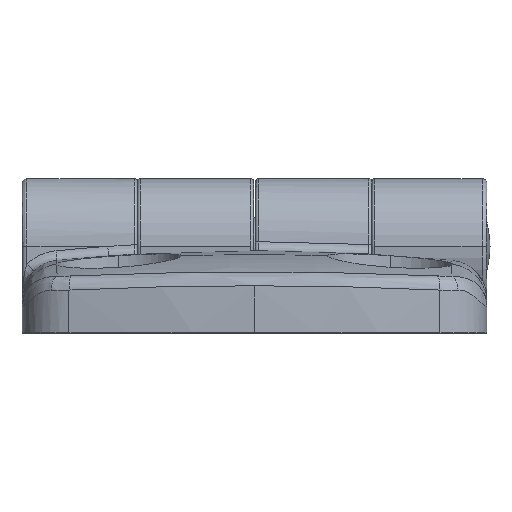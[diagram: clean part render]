
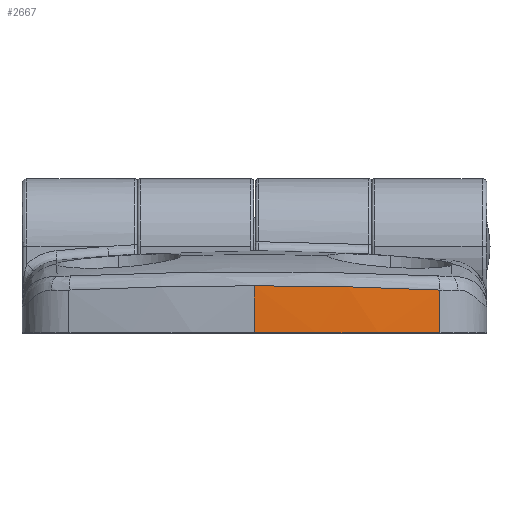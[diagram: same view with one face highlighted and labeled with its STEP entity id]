
A CAD part, top view. The second image highlights one B-rep face of the part: STEP entity #2667.
In plain terms, the highlighted cylindrical face has radius 100 mm (diameter 200 mm), a partial arc.
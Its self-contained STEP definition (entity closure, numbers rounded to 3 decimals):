
#1877 = B_SPLINE_CURVE_WITH_KNOTS ( 'NONE', 3,
 ( #11338, #11332, #11341, #11342, #11343, #11345 ),
 .UNSPECIFIED., .F., .F.,
 ( 4, 2, 4 ),
 ( 0.004, 0.014, 0.024 ),
 .UNSPECIFIED. ) ;
#2667 = ADVANCED_FACE ( 'NONE', ( #7397 ), #7402, .T. ) ;
#3475 = DIRECTION ( 'NONE',  ( 0., -1., 0. ) ) ;
#3499 = CARTESIAN_POINT ( 'NONE',  ( 0., 8.5, 70.5 ) ) ;
#3515 = DIRECTION ( 'NONE',  ( 0., 0., -1. ) ) ;
#4255 = EDGE_LOOP ( 'NONE', ( #6006, #6007, #6008, #6009 ) ) ;
#4492 = VERTEX_POINT ( 'NONE', #10565 ) ;
#4493 = VERTEX_POINT ( 'NONE', #10566 ) ;
#4498 = VERTEX_POINT ( 'NONE', #10571 ) ;
#4499 = VERTEX_POINT ( 'NONE', #10572 ) ;
#4860 = EDGE_CURVE ( 'NONE', #4492, #4493, #1877, .T. ) ;
#4861 = EDGE_CURVE ( 'NONE', #4493, #4498, #11061, .T. ) ;
#4862 = EDGE_CURVE ( 'NONE', #4498, #4499, #11058, .T. ) ;
#4863 = EDGE_CURVE ( 'NONE', #4492, #4499, #11065, .T. ) ;
#6006 = ORIENTED_EDGE ( 'NONE', *, *, #4860, .T. ) ;
#6007 = ORIENTED_EDGE ( 'NONE', *, *, #4861, .T. ) ;
#6008 = ORIENTED_EDGE ( 'NONE', *, *, #4862, .T. ) ;
#6009 = ORIENTED_EDGE ( 'NONE', *, *, #4863, .F. ) ;
#7138 = AXIS2_PLACEMENT_3D ( 'NONE', #3499, #3475, #3515 ) ;
#7397 = FACE_OUTER_BOUND ( 'NONE', #4255, .T. ) ;
#7402 = CYLINDRICAL_SURFACE ( 'NONE', #7138, 100. ) ;
#8156 = AXIS2_PLACEMENT_3D ( 'NONE', #11347, #11348, #11349 ) ;
#10565 = CARTESIAN_POINT ( 'NONE',  ( -19.149, 4.401, -27.649 ) ) ;
#10566 = CARTESIAN_POINT ( 'NONE',  ( 0., 4.84, -29.5 ) ) ;
#10571 = CARTESIAN_POINT ( 'NONE',  ( 0., 0., -29.5 ) ) ;
#10572 = CARTESIAN_POINT ( 'NONE',  ( -19.149, 0., -27.649 ) ) ;
#11058 = CIRCLE ( 'NONE', #8156, 100. ) ;
#11061 = LINE ( 'NONE', #11340, #11064 ) ;
#11064 = VECTOR ( 'NONE', #11346, 1000. ) ;
#11065 = LINE ( 'NONE', #11333, #11067 ) ;
#11067 = VECTOR ( 'NONE', #11339, 1000. ) ;
#11332 = CARTESIAN_POINT ( 'NONE',  ( -15.97, 4.555, -28.27 ) ) ;
#11333 = CARTESIAN_POINT ( 'NONE',  ( -19.149, 16.02, -27.649 ) ) ;
#11338 = CARTESIAN_POINT ( 'NONE',  ( -19.149, 4.401, -27.649 ) ) ;
#11339 = DIRECTION ( 'NONE',  ( 0., -1., 0. ) ) ;
#11340 = CARTESIAN_POINT ( 'NONE',  ( 0., 8.5, -29.5 ) ) ;
#11341 = CARTESIAN_POINT ( 'NONE',  ( -12.785, 4.663, -28.731 ) ) ;
#11342 = CARTESIAN_POINT ( 'NONE',  ( -6.402, 4.806, -29.346 ) ) ;
#11343 = CARTESIAN_POINT ( 'NONE',  ( -3.204, 4.84, -29.5 ) ) ;
#11345 = CARTESIAN_POINT ( 'NONE',  ( 0., 4.84, -29.5 ) ) ;
#11346 = DIRECTION ( 'NONE',  ( 0., -1., 0. ) ) ;
#11347 = CARTESIAN_POINT ( 'NONE',  ( 0., 0., 70.5 ) ) ;
#11348 = DIRECTION ( 'NONE',  ( 0., 1., 0. ) ) ;
#11349 = DIRECTION ( 'NONE',  ( 0., 0., -1. ) ) ;
